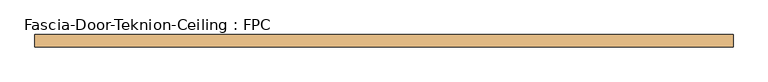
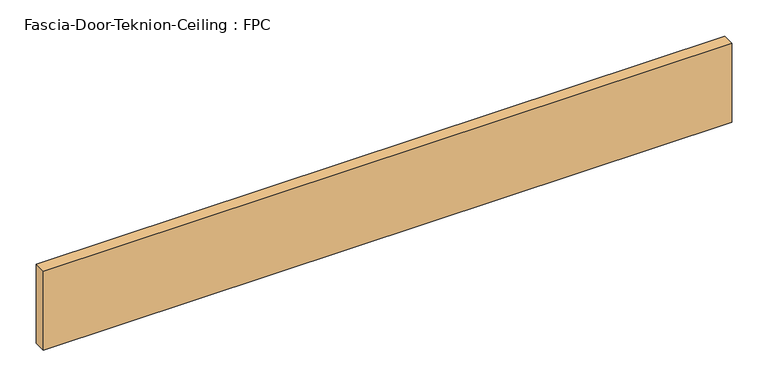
"""IFC4 building model written with IfcOpenShell, lengths in millimetres: door geometry, Fascia-Door-Teknion-Ceiling : FPC."""

from ifc_helpers import new_model, si_unit, origin, origin_with_axes, place, context, project, spatial, polyline, outline, extrude, source, transform, mapped, element, save


def fascia_door_teknion_ceiling_fpc_80850e86(model_context):
    return source(origin(), model_context, "Body", "SweptSolid", [
        extrude(outline(polyline([(544.8101563, 0.0), (-544.8101562, 0.0), (-544.8101562, 19.05), (544.8101563, 19.05), (544.8101563, 0.0)])), origin_with_axes(), (0.0, 0.0, 1.0), 132.08),
    ])


if __name__ == "__main__":
    model = new_model("IFC4")
    model_context = context("Model", 3, world=origin())
    ifc_project = project(units=[si_unit("LENGTHUNIT", "METRE", prefix="MILLI")], contexts=[model_context])
    site = spatial("IfcSite", under=ifc_project)
    building = spatial("IfcBuilding", under=site)
    placement = place(None, origin())
    fascia_door_teknion_ceiling_fpc_shape = fascia_door_teknion_ceiling_fpc_80850e86(model_context)
    element("IfcDoor", 1, ObjectType="Fascia-Door-Teknion-Ceiling : FPC", at=placement, inside=building, context=model_context, shape_type="MappedRepresentation", body=[
        mapped(fascia_door_teknion_ceiling_fpc_shape, transform((0.0, 0.0, 0.0), x_axis=(1.0, 0.0, 0.0), y_axis=(0.0, 1.0, 0.0), z_axis=(0.0, 0.0, 1.0))),
    ])
    save(model, "model.ifc")
